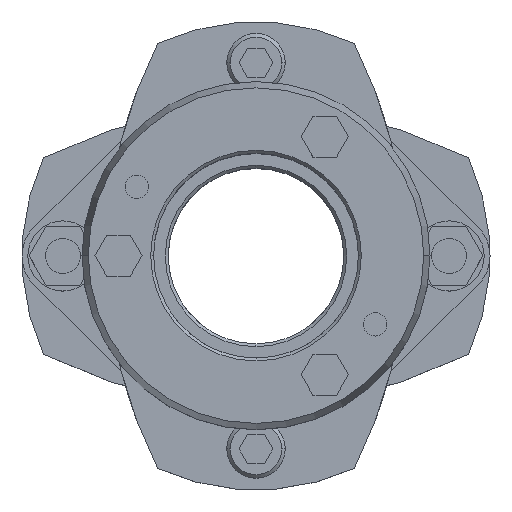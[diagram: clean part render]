
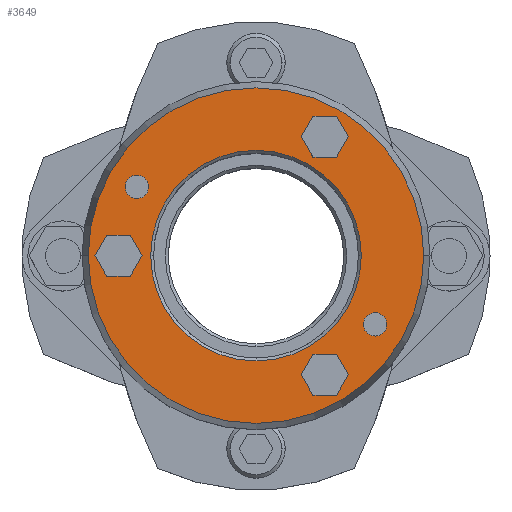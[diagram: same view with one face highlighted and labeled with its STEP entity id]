
A CAD part, top view. The second image highlights one B-rep face of the part: STEP entity #3649.
In plain terms, the highlighted planar face has unit normal (0, 0, 1).
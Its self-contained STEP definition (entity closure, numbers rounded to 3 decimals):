
#1523=CARTESIAN_POINT('',(-18.,0.,35.875));
#1524=VERTEX_POINT('',#1523);
#1540=CARTESIAN_POINT('',(18.,0.,35.875));
#1541=VERTEX_POINT('',#1540);
#1548=CARTESIAN_POINT('',(0.,0.,35.875));
#1549=DIRECTION('',(0.0,0.0,1.0));
#1550=DIRECTION('',(-1.0,0.0,0.0));
#1551=AXIS2_PLACEMENT_3D('',#1548,#1549,#1550);
#1552=CIRCLE('',#1551,18.0);
#1553=EDGE_CURVE('',#1541,#1524,#1552,.T.);
#1711=CARTESIAN_POINT('',(28.678,0.,35.875));
#1712=VERTEX_POINT('',#1711);
#1719=CARTESIAN_POINT('',(-28.678,0.,35.875));
#1720=VERTEX_POINT('',#1719);
#1721=CARTESIAN_POINT('',(0.,0.,35.875));
#1722=DIRECTION('',(0.0,0.0,-1.0));
#1723=DIRECTION('',(1.0,0.0,0.0));
#1724=AXIS2_PLACEMENT_3D('',#1721,#1722,#1723);
#1725=CIRCLE('',#1724,28.678);
#1726=EDGE_CURVE('',#1712,#1720,#1725,.T.);
#1839=CARTESIAN_POINT('',(18.352,-11.75,35.875));
#1840=VERTEX_POINT('',#1839);
#1856=CARTESIAN_POINT('',(22.352,-11.75,35.875));
#1857=VERTEX_POINT('',#1856);
#1864=CARTESIAN_POINT('',(20.352,-11.75,35.875));
#1865=DIRECTION('',(0.0,0.0,-1.0));
#1866=DIRECTION('',(-1.0,0.0,0.0));
#1867=AXIS2_PLACEMENT_3D('',#1864,#1865,#1866);
#1868=CIRCLE('',#1867,2.0);
#1869=EDGE_CURVE('',#1840,#1857,#1868,.T.);
#1881=CARTESIAN_POINT('',(-22.352,11.75,35.875));
#1882=VERTEX_POINT('',#1881);
#1898=CARTESIAN_POINT('',(-18.352,11.75,35.875));
#1899=VERTEX_POINT('',#1898);
#1906=CARTESIAN_POINT('',(-20.352,11.75,35.875));
#1907=DIRECTION('',(0.0,0.0,-1.0));
#1908=DIRECTION('',(-1.0,0.0,0.0));
#1909=AXIS2_PLACEMENT_3D('',#1906,#1907,#1908);
#1910=CIRCLE('',#1909,2.0);
#1911=EDGE_CURVE('',#1882,#1899,#1910,.T.);
#2662=CARTESIAN_POINT('',(-20.352,11.75,35.875));
#2663=DIRECTION('',(0.0,0.0,-1.0));
#2664=DIRECTION('',(-1.0,0.0,0.0));
#2665=AXIS2_PLACEMENT_3D('',#2662,#2663,#2664);
#2666=CIRCLE('',#2665,2.0);
#2667=EDGE_CURVE('',#1899,#1882,#2666,.T.);
#2696=CARTESIAN_POINT('',(20.352,-11.75,35.875));
#2697=DIRECTION('',(0.0,0.0,-1.0));
#2698=DIRECTION('',(-1.0,0.0,0.0));
#2699=AXIS2_PLACEMENT_3D('',#2696,#2697,#2698);
#2700=CIRCLE('',#2699,2.0);
#2701=EDGE_CURVE('',#1857,#1840,#2700,.T.);
#2739=CARTESIAN_POINT('',(-27.541,0.,35.875));
#2740=VERTEX_POINT('',#2739);
#2747=CARTESIAN_POINT('',(-25.521,-3.5,35.875));
#2748=VERTEX_POINT('',#2747);
#2749=CARTESIAN_POINT('',(-25.521,-3.5,35.875));
#2750=DIRECTION('',(-0.5,0.866,0.0));
#2751=VECTOR('',#2750,4.041);
#2752=LINE('',#2749,#2751);
#2753=EDGE_CURVE('',#2748,#2740,#2752,.T.);
#2777=CARTESIAN_POINT('',(-25.521,3.5,35.875));
#2778=VERTEX_POINT('',#2777);
#2785=CARTESIAN_POINT('',(-27.541,0.,35.875));
#2786=DIRECTION('',(0.5,0.866,0.0));
#2787=VECTOR('',#2786,4.041);
#2788=LINE('',#2785,#2787);
#2789=EDGE_CURVE('',#2740,#2778,#2788,.T.);
#2808=CARTESIAN_POINT('',(-21.479,3.5,35.875));
#2809=VERTEX_POINT('',#2808);
#2816=CARTESIAN_POINT('',(-25.521,3.5,35.875));
#2817=DIRECTION('',(1.0,0.0,0.0));
#2818=VECTOR('',#2817,4.041);
#2819=LINE('',#2816,#2818);
#2820=EDGE_CURVE('',#2778,#2809,#2819,.T.);
#2839=CARTESIAN_POINT('',(-19.459,0.,35.875));
#2840=VERTEX_POINT('',#2839);
#2847=CARTESIAN_POINT('',(-21.479,3.5,35.875));
#2848=DIRECTION('',(0.5,-0.866,0.0));
#2849=VECTOR('',#2848,4.041);
#2850=LINE('',#2847,#2849);
#2851=EDGE_CURVE('',#2809,#2840,#2850,.T.);
#2870=CARTESIAN_POINT('',(-21.479,-3.5,35.875));
#2871=VERTEX_POINT('',#2870);
#2878=CARTESIAN_POINT('',(-19.459,0.,35.875));
#2879=DIRECTION('',(-0.5,-0.866,0.0));
#2880=VECTOR('',#2879,4.041);
#2881=LINE('',#2878,#2880);
#2882=EDGE_CURVE('',#2840,#2871,#2881,.T.);
#2900=CARTESIAN_POINT('',(-21.479,-3.5,35.875));
#2901=DIRECTION('',(-1.0,0.0,0.0));
#2902=VECTOR('',#2901,4.041);
#2903=LINE('',#2900,#2902);
#2904=EDGE_CURVE('',#2871,#2748,#2903,.T.);
#2939=CARTESIAN_POINT('',(7.709,20.352,35.875));
#2940=VERTEX_POINT('',#2939);
#2947=CARTESIAN_POINT('',(9.729,16.852,35.875));
#2948=VERTEX_POINT('',#2947);
#2949=CARTESIAN_POINT('',(9.729,16.852,35.875));
#2950=DIRECTION('',(-0.5,0.866,0.0));
#2951=VECTOR('',#2950,4.041);
#2952=LINE('',#2949,#2951);
#2953=EDGE_CURVE('',#2948,#2940,#2952,.T.);
#2977=CARTESIAN_POINT('',(9.729,23.852,35.875));
#2978=VERTEX_POINT('',#2977);
#2985=CARTESIAN_POINT('',(7.709,20.352,35.875));
#2986=DIRECTION('',(0.5,0.866,0.0));
#2987=VECTOR('',#2986,4.041);
#2988=LINE('',#2985,#2987);
#2989=EDGE_CURVE('',#2940,#2978,#2988,.T.);
#3008=CARTESIAN_POINT('',(13.771,23.852,35.875));
#3009=VERTEX_POINT('',#3008);
#3016=CARTESIAN_POINT('',(9.729,23.852,35.875));
#3017=DIRECTION('',(1.0,0.0,0.0));
#3018=VECTOR('',#3017,4.041);
#3019=LINE('',#3016,#3018);
#3020=EDGE_CURVE('',#2978,#3009,#3019,.T.);
#3039=CARTESIAN_POINT('',(15.791,20.352,35.875));
#3040=VERTEX_POINT('',#3039);
#3047=CARTESIAN_POINT('',(13.771,23.852,35.875));
#3048=DIRECTION('',(0.5,-0.866,0.0));
#3049=VECTOR('',#3048,4.041);
#3050=LINE('',#3047,#3049);
#3051=EDGE_CURVE('',#3009,#3040,#3050,.T.);
#3070=CARTESIAN_POINT('',(13.771,16.852,35.875));
#3071=VERTEX_POINT('',#3070);
#3078=CARTESIAN_POINT('',(15.791,20.352,35.875));
#3079=DIRECTION('',(-0.5,-0.866,0.0));
#3080=VECTOR('',#3079,4.041);
#3081=LINE('',#3078,#3080);
#3082=EDGE_CURVE('',#3040,#3071,#3081,.T.);
#3100=CARTESIAN_POINT('',(13.771,16.852,35.875));
#3101=DIRECTION('',(-1.0,0.0,0.0));
#3102=VECTOR('',#3101,4.041);
#3103=LINE('',#3100,#3102);
#3104=EDGE_CURVE('',#3071,#2948,#3103,.T.);
#3139=CARTESIAN_POINT('',(7.709,-20.352,35.875));
#3140=VERTEX_POINT('',#3139);
#3147=CARTESIAN_POINT('',(9.729,-23.852,35.875));
#3148=VERTEX_POINT('',#3147);
#3149=CARTESIAN_POINT('',(9.729,-23.852,35.875));
#3150=DIRECTION('',(-0.5,0.866,0.0));
#3151=VECTOR('',#3150,4.041);
#3152=LINE('',#3149,#3151);
#3153=EDGE_CURVE('',#3148,#3140,#3152,.T.);
#3177=CARTESIAN_POINT('',(9.729,-16.852,35.875));
#3178=VERTEX_POINT('',#3177);
#3185=CARTESIAN_POINT('',(7.709,-20.352,35.875));
#3186=DIRECTION('',(0.5,0.866,0.0));
#3187=VECTOR('',#3186,4.041);
#3188=LINE('',#3185,#3187);
#3189=EDGE_CURVE('',#3140,#3178,#3188,.T.);
#3208=CARTESIAN_POINT('',(13.771,-16.852,35.875));
#3209=VERTEX_POINT('',#3208);
#3216=CARTESIAN_POINT('',(9.729,-16.852,35.875));
#3217=DIRECTION('',(1.0,0.0,0.0));
#3218=VECTOR('',#3217,4.041);
#3219=LINE('',#3216,#3218);
#3220=EDGE_CURVE('',#3178,#3209,#3219,.T.);
#3239=CARTESIAN_POINT('',(15.791,-20.352,35.875));
#3240=VERTEX_POINT('',#3239);
#3247=CARTESIAN_POINT('',(13.771,-16.852,35.875));
#3248=DIRECTION('',(0.5,-0.866,0.0));
#3249=VECTOR('',#3248,4.041);
#3250=LINE('',#3247,#3249);
#3251=EDGE_CURVE('',#3209,#3240,#3250,.T.);
#3270=CARTESIAN_POINT('',(13.771,-23.852,35.875));
#3271=VERTEX_POINT('',#3270);
#3278=CARTESIAN_POINT('',(15.791,-20.352,35.875));
#3279=DIRECTION('',(-0.5,-0.866,0.0));
#3280=VECTOR('',#3279,4.041);
#3281=LINE('',#3278,#3280);
#3282=EDGE_CURVE('',#3240,#3271,#3281,.T.);
#3300=CARTESIAN_POINT('',(13.771,-23.852,35.875));
#3301=DIRECTION('',(-1.0,0.0,0.0));
#3302=VECTOR('',#3301,4.041);
#3303=LINE('',#3300,#3302);
#3304=EDGE_CURVE('',#3271,#3148,#3303,.T.);
#3588=CARTESIAN_POINT('',(0.,0.,35.875));
#3589=DIRECTION('',(0.0,0.0,-1.0));
#3590=DIRECTION('',(1.0,0.0,0.0));
#3591=AXIS2_PLACEMENT_3D('',#3588,#3589,#3590);
#3592=CIRCLE('',#3591,28.678);
#3593=EDGE_CURVE('',#1720,#1712,#3592,.T.);
#3598=CARTESIAN_POINT('',(-2.364,0.,35.875));
#3599=DIRECTION('',(0.0,0.0,1.0));
#3600=DIRECTION('',(-1.0,0.0,0.0));
#3601=AXIS2_PLACEMENT_3D('',#3598,#3599,#3600);
#3602=PLANE('',#3601);
#3603=ORIENTED_EDGE('',*,*,#3593,.F.);
#3604=ORIENTED_EDGE('',*,*,#1726,.F.);
#3605=EDGE_LOOP('',(#3603,#3604));
#3606=FACE_OUTER_BOUND('',#3605,.T.);
#3607=ORIENTED_EDGE('',*,*,#1911,.T.);
#3608=ORIENTED_EDGE('',*,*,#2667,.T.);
#3609=EDGE_LOOP('',(#3607,#3608));
#3610=FACE_BOUND('',#3609,.T.);
#3611=ORIENTED_EDGE('',*,*,#1869,.T.);
#3612=ORIENTED_EDGE('',*,*,#2701,.T.);
#3613=EDGE_LOOP('',(#3611,#3612));
#3614=FACE_BOUND('',#3613,.T.);
#3615=ORIENTED_EDGE('',*,*,#2753,.T.);
#3616=ORIENTED_EDGE('',*,*,#2789,.T.);
#3617=ORIENTED_EDGE('',*,*,#2820,.T.);
#3618=ORIENTED_EDGE('',*,*,#2851,.T.);
#3619=ORIENTED_EDGE('',*,*,#2882,.T.);
#3620=ORIENTED_EDGE('',*,*,#2904,.T.);
#3621=EDGE_LOOP('',(#3615,#3616,#3617,#3618,#3619,#3620));
#3622=FACE_BOUND('',#3621,.T.);
#3623=ORIENTED_EDGE('',*,*,#2953,.T.);
#3624=ORIENTED_EDGE('',*,*,#2989,.T.);
#3625=ORIENTED_EDGE('',*,*,#3020,.T.);
#3626=ORIENTED_EDGE('',*,*,#3051,.T.);
#3627=ORIENTED_EDGE('',*,*,#3082,.T.);
#3628=ORIENTED_EDGE('',*,*,#3104,.T.);
#3629=EDGE_LOOP('',(#3623,#3624,#3625,#3626,#3627,#3628));
#3630=FACE_BOUND('',#3629,.T.);
#3631=ORIENTED_EDGE('',*,*,#3153,.T.);
#3632=ORIENTED_EDGE('',*,*,#3189,.T.);
#3633=ORIENTED_EDGE('',*,*,#3220,.T.);
#3634=ORIENTED_EDGE('',*,*,#3251,.T.);
#3635=ORIENTED_EDGE('',*,*,#3282,.T.);
#3636=ORIENTED_EDGE('',*,*,#3304,.T.);
#3637=EDGE_LOOP('',(#3631,#3632,#3633,#3634,#3635,#3636));
#3638=FACE_BOUND('',#3637,.T.);
#3639=ORIENTED_EDGE('',*,*,#1553,.F.);
#3640=CARTESIAN_POINT('',(0.,0.,35.875));
#3641=DIRECTION('',(0.0,0.0,1.0));
#3642=DIRECTION('',(-1.0,0.0,0.0));
#3643=AXIS2_PLACEMENT_3D('',#3640,#3641,#3642);
#3644=CIRCLE('',#3643,18.0);
#3645=EDGE_CURVE('',#1524,#1541,#3644,.T.);
#3646=ORIENTED_EDGE('',*,*,#3645,.F.);
#3647=EDGE_LOOP('',(#3639,#3646));
#3648=FACE_BOUND('',#3647,.T.);
#3649=ADVANCED_FACE('',(#3606,#3610,#3614,#3622,#3630,#3638,#3648),#3602,.T.);
